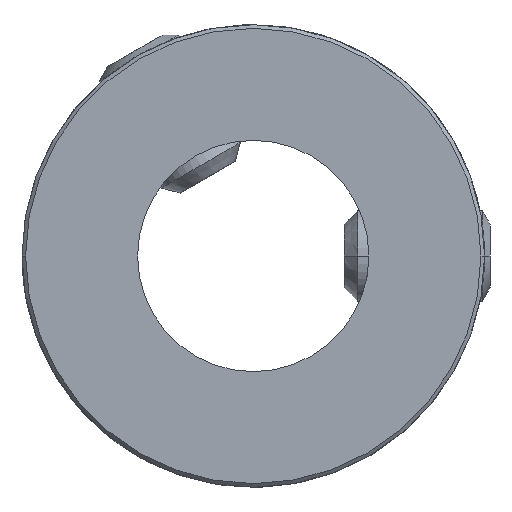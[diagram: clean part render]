
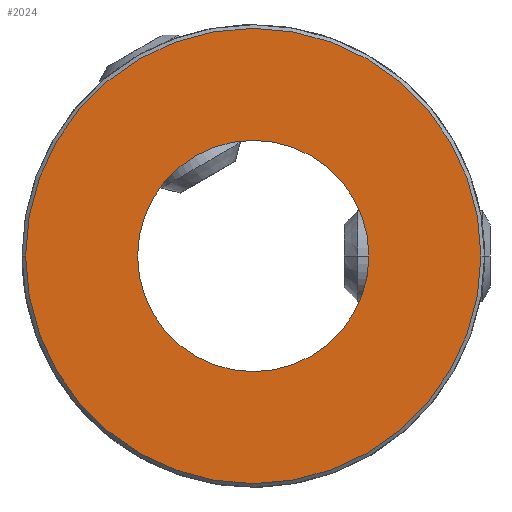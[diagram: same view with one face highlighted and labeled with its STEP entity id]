
A CAD part, front view. The second image highlights one B-rep face of the part: STEP entity #2024.
In plain terms, the highlighted planar face has unit normal (0, -1, 0).
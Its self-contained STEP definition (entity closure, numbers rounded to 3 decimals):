
#1=CARTESIAN_POINT('',(0.,-19.05,0.));
#2=DIRECTION('',(0.,-1.,0.));
#3=DIRECTION('',(-1.,0.,0.));
#4=AXIS2_PLACEMENT_3D('',#1,#2,#3);
#6=CARTESIAN_POINT('',(0.,-19.05,
0.));
#7=DIRECTION('',(0.,-1.,0.));
#8=DIRECTION('',(1.,0.,0.));
#9=AXIS2_PLACEMENT_3D('',#6,#7,#8);
#11=CARTESIAN_POINT('',(0.,-19.05,0.));
#12=DIRECTION('',(0.,1.,0.));
#13=DIRECTION('',(1.,0.,0.));
#14=AXIS2_PLACEMENT_3D('',#11,#12,#13);
#16=CARTESIAN_POINT('',(0.,-19.05,0.));
#17=DIRECTION('',(0.,1.,0.));
#18=DIRECTION('',(-1.,0.,0.));
#19=AXIS2_PLACEMENT_3D('',#16,#17,#18);
#1817=CARTESIAN_POINT('',(6.35,-19.05,0.));
#1818=CARTESIAN_POINT('',(-6.35,-19.05,0.));
#1819=VERTEX_POINT('',#1817);
#1820=VERTEX_POINT('',#1818);
#1845=CARTESIAN_POINT('',(-12.5,-19.05,0.));
#1846=CARTESIAN_POINT('',(12.5,-19.05,0.));
#1847=VERTEX_POINT('',#1845);
#1848=VERTEX_POINT('',#1846);
#2007=CARTESIAN_POINT('',(0.,-19.05,0.));
#2008=DIRECTION('',(0.,1.,0.));
#2009=DIRECTION('',(1.,0.,0.));
#2010=AXIS2_PLACEMENT_3D('',#2007,#2008,#2009);
#2011=PLANE('',#2010);
#2013=ORIENTED_EDGE('',*,*,#2012,.F.);
#2015=ORIENTED_EDGE('',*,*,#2014,.F.);
#2016=EDGE_LOOP('',(#2013,#2015));
#2017=FACE_OUTER_BOUND('',#2016,.F.);
#2019=ORIENTED_EDGE('',*,*,#2018,.F.);
#2021=ORIENTED_EDGE('',*,*,#2020,.F.);
#2022=EDGE_LOOP('',(#2019,#2021));
#2023=FACE_BOUND('',#2022,.F.);
#2024=ADVANCED_FACE('',(#2017,#2023),#2011,.F.);
#5=CIRCLE('',#4,12.5);
#10=CIRCLE('',#9,12.5);
#15=CIRCLE('',#14,6.35);
#20=CIRCLE('',#19,6.35);
#2012=EDGE_CURVE('',#1847,#1848,#5,.T.);
#2014=EDGE_CURVE('',#1848,#1847,#10,.T.);
#2018=EDGE_CURVE('',#1819,#1820,#15,.T.);
#2020=EDGE_CURVE('',#1820,#1819,#20,.T.);
